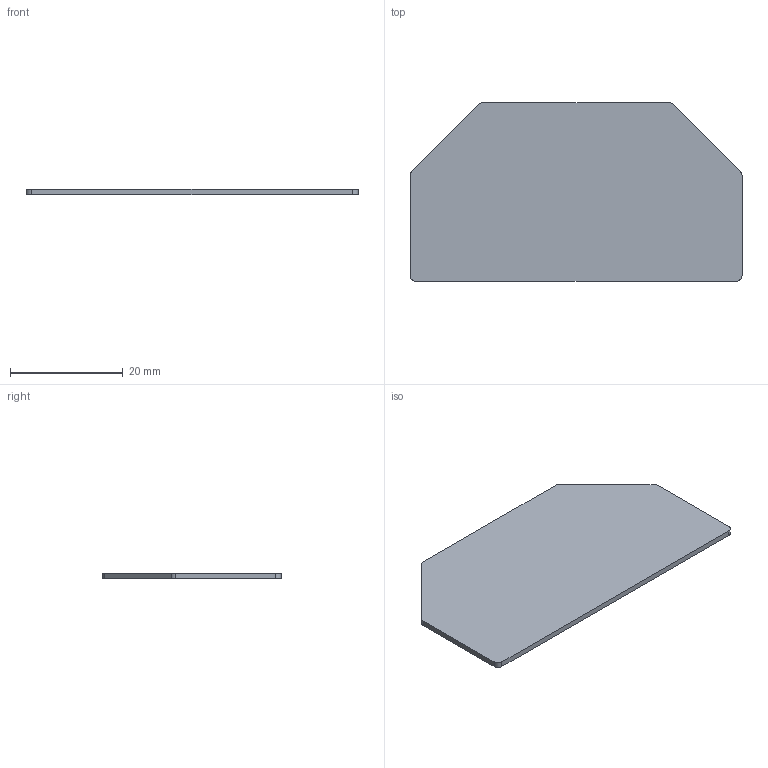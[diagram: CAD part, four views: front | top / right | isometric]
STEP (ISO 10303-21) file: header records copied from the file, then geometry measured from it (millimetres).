
FILE_DESCRIPTION(('OneSpaceDesigner STEP Export'),'2;1');
FILE_NAME('3101223_ats_mtk-select.stp','2004-09-30T 8:12:28',(''),(''),'OneSpace Designer STEP processor (Jan. 2003) for AP203(Solid Model)','OneSpace Designer 12.01C 26-Mar-2004 (C) CoCreate Software GmbH','');
FILE_SCHEMA(('CONFIG_CONTROL_DESIGN'));
Length unit declared in the file: millimetre
Products named in the file (1): 3101223_ats_mtk-select
Bounding box: 59 x 31.7 x 1 mm (x, y, z)
Volume: 1713.5 mm3; surface area: 3592.8 mm2
Topology: 1 solids, 1 shells, 14 faces, 36 edges, 24 vertices
Faces by surface type: plane 8, cylinder 6
Entity records: 529 total; most frequent: DIRECTION 78, CARTESIAN_POINT 75, ORIENTED_EDGE 72, EDGE_CURVE 36, AXIS2_PLACEMENT_3D 27, VERTEX_POINT 24, VECTOR 24, LINE 24
